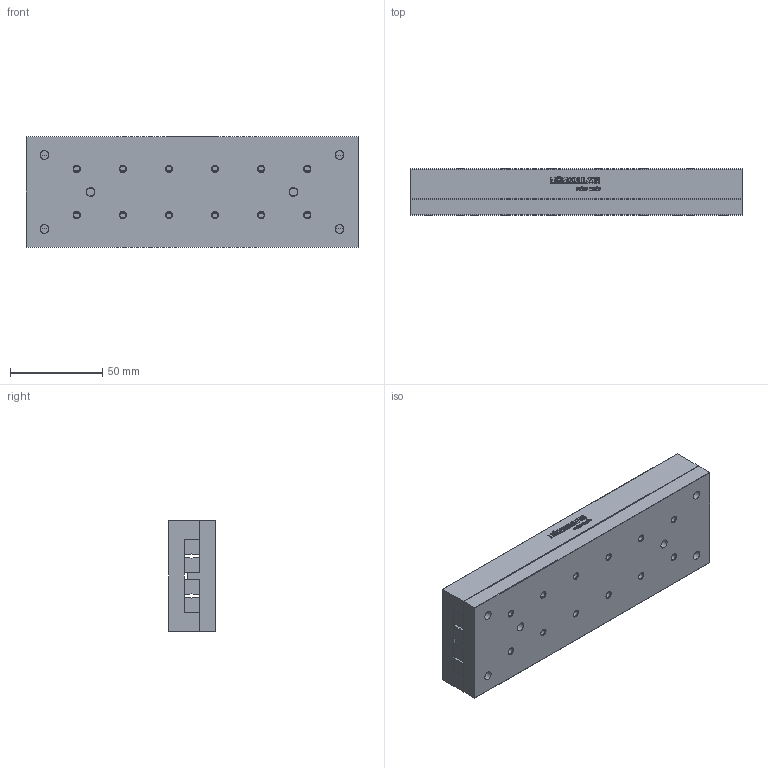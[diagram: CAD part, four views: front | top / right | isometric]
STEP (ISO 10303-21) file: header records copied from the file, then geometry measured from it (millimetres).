
FILE_DESCRIPTION(/* description */ ('STEP AP214'),/* implementation_level */ '2;1');
FILE_NAME(/* name */ 'NKL 3-180(0)',/* time_stamp */ '2025-04-23T07:59:48+02:00',/* author */ ('License CC BY-ND 4.0'),/* organization */ ('CADENAS'),/* preprocessor_version */ 'ST-DEVELOPER v19.3',/* originating_system */ 'PARTsolutions',/* authorisation */ ' ');
FILE_SCHEMA (('AUTOMOTIVE_DESIGN {1 0 10303 214 3 1 1}'));
Length unit declared in the file: millimetre
Products named in the file (3): NKL 3-180(0); NKL 3-180_1; NKL 3-180_2
Assembly tree (2 placements, depth 2):
  NKL 3-180(0)
    NKL 3-180_1
    NKL 3-180_2
Bounding box: 180 x 25 x 60 mm (x, y, z)
Volume: 259527.6 mm3; surface area: 75242.9 mm2
Topology: 2 solids, 2 shells, 673 faces, 1844 edges, 1200 vertices
Faces by surface type: cylinder 328, plane 297, cone 48
Full cylindrical faces by diameter (mm): 3.242 x24, 4.8 x6, 8 x6
Entity records: 21129 total; most frequent: DIRECTION 3816, CARTESIAN_POINT 3612, ORIENTED_EDGE 3496, EDGE_CURVE 1748, AXIS2_PLACEMENT_3D 1392, VERTEX_POINT 1188, LINE 1032, VECTOR 1032
